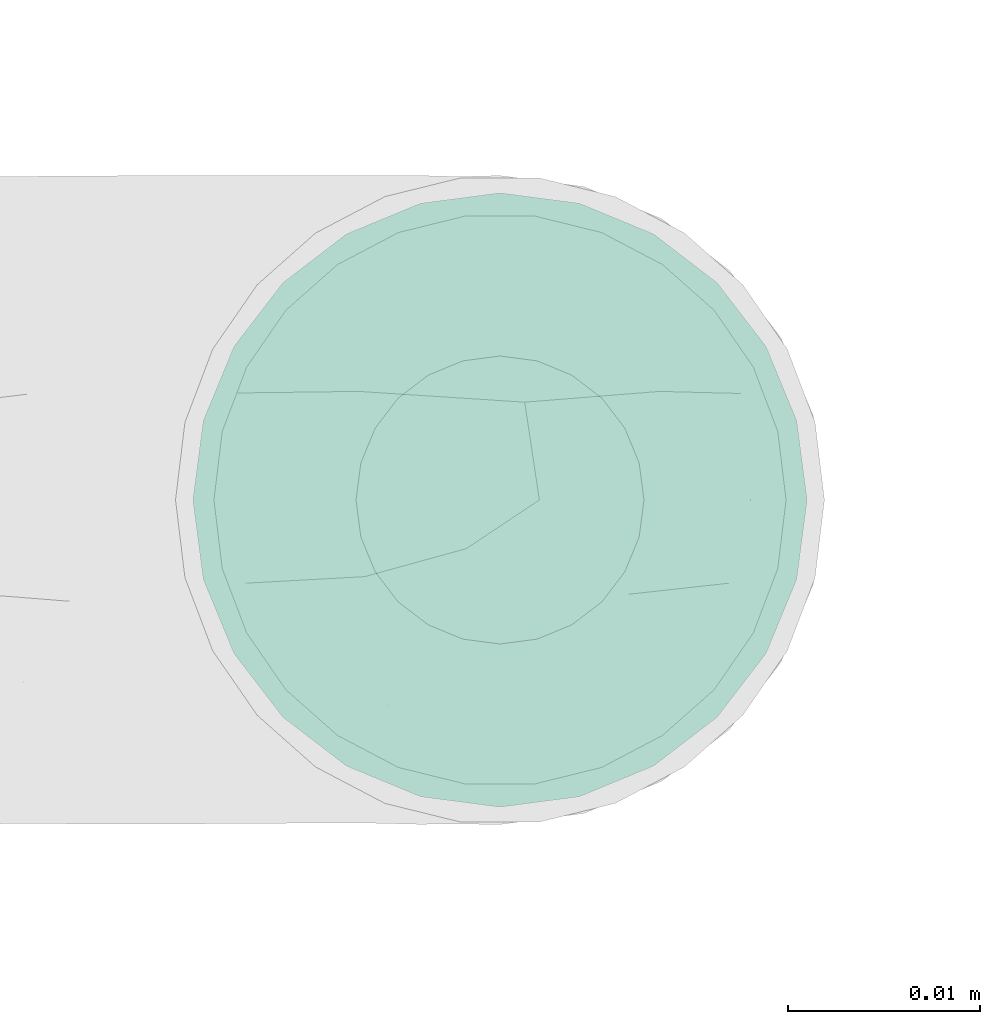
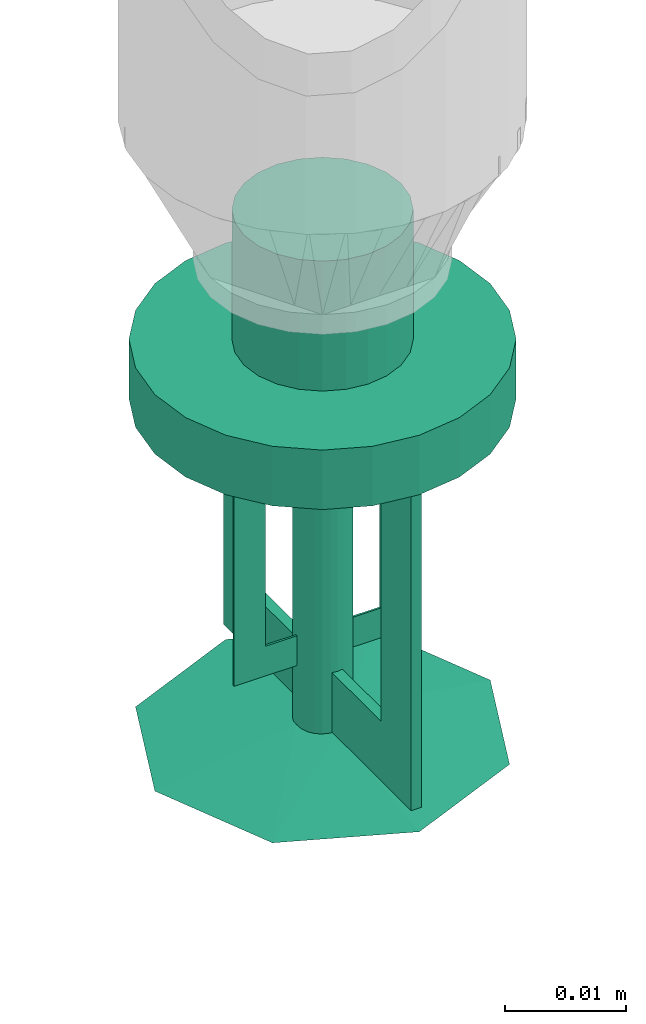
# One storey, part 73 of 157: 1 flow terminal.
"""IFC2X3 building model written with IfcOpenShell, lengths in millimetres."""

from ifc_helpers import new_model, entity, si_unit, converted_unit, derived_unit, direction, frame, origin_with_axes, place, context, subcontext, project, spatial, open_shell, surface_model, source, transform, mapped, type_object, element, save


model = new_model("IFC2X3")

# Units and contexts
model_context = context("Model", 3, precision=0.01, world=frame((0.0, 4.29681676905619e-09, 0.0)), true_north=direction((4.01073788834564e-13, 1.0)))
plan_context = context("Plan", 3, precision=0.01, world=frame((0.0, 4.29681676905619e-09, 0.0)), true_north=direction((4.01073788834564e-13, 1.0)))
body_context = subcontext(model_context, "Body", "Model", "MODEL_VIEW")
ifc_project = project(units=[converted_unit("PLANEANGLEUNIT", "DEGREE", entity("IfcPositiveLengthMeasure", 0.0174532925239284), si_unit("PLANEANGLEUNIT", "RADIAN"), dimensions=[0, 0, 0, 0, 0, 0, 0]), si_unit("AREAUNIT", "SQUARE_METRE"), si_unit("LENGTHUNIT", "METRE", prefix="MILLI"), si_unit("MASSUNIT", "GRAM", prefix="KILO"), si_unit("POWERUNIT", "WATT"), si_unit("PRESSUREUNIT", "PASCAL"), si_unit("FORCEUNIT", "NEWTON", prefix="KILO"), si_unit("ELECTRICCURRENTUNIT", "AMPERE"), si_unit("THERMODYNAMICTEMPERATUREUNIT", "DEGREE_CELSIUS"), si_unit("TIMEUNIT", "SECOND"), si_unit("VOLUMEUNIT", "CUBIC_METRE"), derived_unit("LINEARVELOCITYUNIT", [(si_unit("LENGTHUNIT", "METRE"), 1), (si_unit("TIMEUNIT", "SECOND"), -1)]), derived_unit("VOLUMETRICFLOWRATEUNIT", [(si_unit("VOLUMEUNIT", "CUBIC_METRE"), 1), (si_unit("TIMEUNIT", "SECOND"), -1)]), derived_unit("THERMALTRANSMITTANCEUNIT", [(si_unit("POWERUNIT", "WATT"), 1), (si_unit("THERMODYNAMICTEMPERATUREUNIT", "KELVIN"), -1), (si_unit("AREAUNIT", "SQUARE_METRE"), -1)])], contexts=[model_context, plan_context])

# Site, building, storey
site_placement = place(None, frame((0.0, -4.29681676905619e-09, 0.0), z_axis=(0.0, 0.0, 1.0), x_axis=(1.0, 0.0, 0.0)))
site = spatial("IfcSite", under=ifc_project, at=site_placement, CompositionType="ELEMENT")
building_placement = place(site_placement, frame((0.0, 4.29681676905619e-09, 0.0), z_axis=(0.0, 0.0, 1.0), x_axis=(1.0, 0.0, 0.0)))
building = spatial("IfcBuilding", under=site, at=building_placement, Name="mc-building", CompositionType="ELEMENT")
storey_placement = place(building_placement, frame((0.0, 0.0, 204000.0), z_axis=(0.0, 0.0, 1.0), x_axis=(1.0, 0.0, 0.0)))
storey = spatial("IfcBuildingStorey", under=building, at=storey_placement, Name="Nivå D", CompositionType="ELEMENT", Elevation=204000.0)

# Flow terminal
fire_suppression_terminal_type = type_object("IfcFireSuppressionTerminalType", Name="SP-15-K80-68DGR-STD-STÅENDE", PredefinedType="NOTDEFINED")
shared_shape = source(origin_with_axes(), body_context, "Body", "SurfaceModel", [
    surface_model("IfcShellBasedSurfaceModel", [(7.24444, -1.94114, 0.1), (1.94114, -7.24444, 0.1), (3.75, -6.49519, 0.1), (5.3033, -5.3033, 0.1), (-5.3033, -5.3033, 0.1), (6.49519, -3.75, 0.1), (5.3033, 5.3033, 0.1), (0.0, -7.5, 0.1), (-3.75, -6.49519, 0.1), (-1.94114, -7.24444, 0.1), (-7.24444, -1.94114, 0.1), (-6.49519, -3.75, 0.1), (-7.24444, 1.94114, 0.1), (7.5, 0.0, 0.1), (6.49519, 3.75, 0.1), (-6.49519, 3.75, 0.1), (1.94114, 7.24444, 0.1), (0.0, 7.5, 0.1), (3.75, 6.49519, 0.1), (-7.5, 0.0, 0.1), (-5.3033, 5.3033, 0.1), (-1.94114, 7.24444, 0.1), (-3.75, 6.49519, 0.1), (7.24444, 1.94114, 0.1), (1.94114, 7.24444, -0.1), (-6.49519, 3.75, -0.1), (0.0, 7.5, -0.1), (5.3033, 5.3033, -0.1), (3.75, 6.49519, -0.1), (6.49519, 3.75, -0.1), (7.24444, 1.94114, -0.1), (-1.94114, 7.24444, -0.1), (-5.3033, 5.3033, -0.1), (-3.75, 6.49519, -0.1), (-7.24444, 1.94114, -0.1), (-7.24444, -1.94114, -0.1), (-7.5, 0.0, -0.1), (7.5, 0.0, -0.1), (7.24444, -1.94114, -0.1), (-5.3033, -5.3033, -0.1), (1.94114, -7.24444, -0.1), (6.49519, -3.75, -0.1), (5.3033, -5.3033, -0.1), (3.75, -6.49519, -0.1), (-6.49519, -3.75, -0.1), (-3.75, -6.49519, -0.1), (0.0, -7.5, -0.1), (-1.94114, -7.24444, -0.1), (0.0, -2.5, 51.0), (-2.5, 0.0, 51.0), (0.0, 2.5, 51.0), (2.5, 0.0, 51.0), (0.0, -16.0, 53.0), (11.31371, -11.31371, 53.0), (-11.31371, -11.31371, 53.0), (-16.0, 0.0, 53.0), (16.0, 0.0, 53.0), (11.31371, 11.31371, 53.0), (0.0, 16.0, 53.0), (-11.31371, 11.31371, 53.0), (1.25, -2.16506, 57.0), (0.0, -2.5, 57.0), (0.64705, -2.41481, 57.0), (2.41481, -0.64705, 57.0), (1.76777, -1.76777, 57.0), (-2.41481, -0.64705, 57.0), (-2.5, 0.0, 57.0), (2.16506, -1.25, 57.0), (-1.25, -2.16506, 57.0), (-0.64705, -2.41481, 57.0), (-1.76777, -1.76777, 57.0), (-2.16506, -1.25, 57.0), (2.5, 0.0, 57.0), (2.41481, 0.64705, 57.0), (2.16506, 1.25, 57.0), (1.76777, 1.76777, 57.0), (0.64705, 2.41481, 57.0), (1.25, 2.16506, 57.0), (-1.76777, 1.76777, 57.0), (0.0, 2.5, 57.0), (-2.16506, 1.25, 57.0), (-2.41481, 0.64705, 57.0), (-0.64705, 2.41481, 57.0), (-1.25, 2.16506, 57.0), (1.25, 2.16506, 51.0), (1.76777, 1.76777, 51.0), (1.15, 1.99186, 51.0), (0.59528, 2.22163, 51.0), (0.64705, 2.41481, 51.0), (0.0, 2.3, 51.0), (1.62635, 1.62635, 51.0), (2.41481, 0.64705, 51.0), (2.3, 0.0, 51.0), (2.22163, 0.59528, 51.0), (2.16506, 1.25, 51.0), (1.99186, 1.15, 51.0), (-0.59528, 2.22163, 51.0), (-0.64705, 2.41481, 51.0), (-1.15, 1.99186, 51.0), (-1.76777, 1.76777, 51.0), (-1.25, 2.16506, 51.0), (-1.62635, 1.62635, 51.0), (-1.99186, 1.15, 51.0), (-2.16506, 1.25, 51.0), (-2.22163, 0.59528, 51.0), (-2.41481, 0.64705, 51.0), (-2.3, 0.0, 51.0), (2.41481, -0.64705, 51.0), (2.22163, -0.59528, 51.0), (1.99186, -1.15, 51.0), (2.16506, -1.25, 51.0), (1.62635, -1.62635, 51.0), (1.76777, -1.76777, 51.0), (1.25, -2.16506, 51.0), (1.15, -1.99186, 51.0), (0.59528, -2.22163, 51.0), (0.64705, -2.41481, 51.0), (0.0, -2.3, 51.0), (-2.16506, -1.25, 51.0), (-1.99186, -1.15, 51.0), (-1.76777, -1.76777, 51.0), (-1.62635, -1.62635, 51.0), (-2.41481, -0.64705, 51.0), (-2.22163, -0.59528, 51.0), (-0.59528, -2.22163, 51.0), (-0.64705, -2.41481, 51.0), (-1.15, -1.99186, 51.0), (-1.25, -2.16506, 51.0), (1.62635, -1.62635, 56.8), (1.15, -1.99186, 56.8), (0.59528, -2.22163, 56.8), (0.0, -2.3, 56.8), (2.22163, 0.59528, 56.8), (1.99186, -1.15, 56.8), (2.22163, -0.59528, 56.8), (-0.59528, -2.22163, 56.8), (-1.15, -1.99186, 56.8), (-1.62635, -1.62635, 56.8), (-1.99186, -1.15, 56.8), (-2.22163, -0.59528, 56.8), (-1.99186, 1.15, 56.8), (2.3, 0.0, 56.8), (1.62635, 1.62635, 56.8), (1.99186, 1.15, 56.8), (1.15, 1.99186, 56.8), (0.0, 2.3, 56.8), (0.59528, 2.22163, 56.8), (-2.22163, 0.59528, 56.8), (-2.3, 0.0, 56.8), (-1.15, 1.99186, 56.8), (-0.59528, 2.22163, 56.8), (-1.62635, 1.62635, 56.8), (4.1411, -15.45481, 19.0), (8.0, -13.85641, 19.0), (11.31371, -11.31371, 19.0), (-8.0, -13.85641, 19.0), (15.45481, -4.1411, 19.0), (16.0, 0.0, 19.0), (13.85641, -8.0, 19.0), (0.0, -16.0, 19.0), (-4.1411, -15.45481, 19.0), (-13.85641, -8.0, 19.0), (-11.31371, -11.31371, 19.0), (-15.45481, -4.1411, 19.0), (15.45481, 4.1411, 19.0), (13.85641, 8.0, 19.0), (11.31371, 11.31371, 19.0), (-4.1411, 15.45481, 19.0), (8.0, 13.85641, 19.0), (4.1411, 15.45481, 19.0), (0.0, 16.0, 19.0), (-13.85641, 8.0, 19.0), (-15.45481, 4.1411, 19.0), (-16.0, 0.0, 19.0), (-11.31371, 11.31371, 19.0), (-8.0, 13.85641, 19.0), (0.0, 16.0, 13.0), (4.1411, 15.45481, 13.0), (8.0, 13.85641, 13.0), (-4.1411, 15.45481, 13.0), (11.31371, 11.31371, 13.0), (13.85641, 8.0, 13.0), (15.45481, 4.1411, 13.0), (-15.45481, -4.1411, 13.0), (-11.31371, 11.31371, 13.0), (-8.0, 13.85641, 13.0), (-13.85641, 8.0, 13.0), (-15.45481, 4.1411, 13.0), (-16.0, 0.0, 13.0), (4.1411, -15.45481, 13.0), (16.0, 0.0, 13.0), (15.45481, -4.1411, 13.0), (13.85641, -8.0, 13.0), (11.31371, -11.31371, 13.0), (8.0, -13.85641, 13.0), (-8.0, -13.85641, 13.0), (-13.85641, -8.0, 13.0), (-11.31371, -11.31371, 13.0), (0.0, -16.0, 13.0), (-4.1411, -15.45481, 13.0), (7.24444, -1.94114, 13.0), (1.94114, -7.24444, 13.0), (3.75, -6.49519, 13.0), (5.3033, -5.3033, 13.0), (-5.3033, -5.3033, 13.0), (6.49519, -3.75, 13.0), (5.3033, 5.3033, 13.0), (0.0, -7.5, 13.0), (-3.75, -6.49519, 13.0), (-1.94114, -7.24444, 13.0), (-7.24444, -1.94114, 13.0), (-6.49519, -3.75, 13.0), (-7.24444, 1.94114, 13.0), (7.5, 0.0, 13.0), (6.49519, 3.75, 13.0), (-6.49519, 3.75, 13.0), (1.94114, 7.24444, 13.0), (0.0, 7.5, 13.0), (3.75, 6.49519, 13.0), (-7.5, 0.0, 13.0), (-5.3033, 5.3033, 13.0), (-1.94114, 7.24444, 13.0), (-3.75, 6.49519, 13.0), (7.24444, 1.94114, 13.0), (3.75, 6.49519, 0.0), (5.3033, 5.3033, 0.0), (3.65, 6.32199, 0.0), (1.88938, 7.05126, 0.0), (0.0, 7.3, 0.0), (1.94114, 7.24444, 0.0), (0.0, 7.5, 0.0), (5.16188, 5.16188, 0.0), (7.24444, 1.94114, 0.0), (7.3, 0.0, 0.0), (7.05126, 1.88938, 0.0), (7.5, 0.0, 0.0), (6.49519, 3.75, 0.0), (6.32199, 3.65, 0.0), (-1.88938, 7.05126, 0.0), (-1.94114, 7.24444, 0.0), (-3.65, 6.32199, 0.0), (-5.3033, 5.3033, 0.0), (-3.75, 6.49519, 0.0), (-5.16188, 5.16188, 0.0), (-6.32199, 3.65, 0.0), (-6.49519, 3.75, 0.0), (-7.05126, 1.88938, 0.0), (-7.24444, 1.94114, 0.0), (-7.3, 0.0, 0.0), (-7.5, 0.0, 0.0), (7.24444, -1.94114, 0.0), (7.05126, -1.88938, 0.0), (6.32199, -3.65, 0.0), (6.49519, -3.75, 0.0), (5.16188, -5.16188, 0.0), (5.3033, -5.3033, 0.0), (3.75, -6.49519, 0.0), (3.65, -6.32199, 0.0), (1.88938, -7.05126, 0.0), (1.94114, -7.24444, 0.0), (0.0, -7.3, 0.0), (0.0, -7.5, 0.0), (-6.49519, -3.75, 0.0), (-6.32199, -3.65, 0.0), (-5.3033, -5.3033, 0.0), (-5.16188, -5.16188, 0.0), (-7.24444, -1.94114, 0.0), (-7.05126, -1.88938, 0.0), (-1.88938, -7.05126, 0.0), (-1.94114, -7.24444, 0.0), (-3.65, -6.32199, 0.0), (-3.75, -6.49519, 0.0), (1.88938, -7.05126, 12.8), (0.0, -7.3, 12.8), (3.65, -6.32199, 12.8), (5.16188, -5.16188, 12.8), (6.32199, -3.65, 12.8), (7.05126, 1.88938, 12.8), (7.05126, -1.88938, 12.8), (-5.16188, -5.16188, 12.8), (-1.88938, -7.05126, 12.8), (-3.65, -6.32199, 12.8), (-6.32199, -3.65, 12.8), (-7.05126, -1.88938, 12.8), (0.0, 7.3, 12.8), (7.3, 0.0, 12.8), (6.32199, 3.65, 12.8), (5.16188, 5.16188, 12.8), (3.65, 6.32199, 12.8), (1.88938, 7.05126, 12.8), (-6.32199, 3.65, 12.8), (-7.05126, 1.88938, 12.8), (-7.3, 0.0, 12.8), (-3.65, 6.32199, 12.8), (-1.88938, 7.05126, 12.8), (-5.16188, 5.16188, 12.8), (5.5, 0.1, 42.0), (2.5, 0.1, 42.0), (5.5, 0.1, 45.0), (2.5, 0.1, 45.0), (5.5, -0.1, 45.0), (2.5, -0.1, 45.0), (5.5, -0.1, 42.0), (2.5, -0.1, 42.0), (8.5, 0.1, 42.0), (8.5, 0.1, 45.0), (8.5, -0.1, 45.0), (8.5, -0.1, 42.0), (8.5, 0.1, 19.0), (5.5, 0.1, 19.0), (5.5, -0.1, 19.0), (8.5, -0.1, 19.0), (-5.5, -0.1, 42.0), (-2.5, -0.1, 42.0), (-5.5, -0.1, 45.0), (-2.5, -0.1, 45.0), (-5.5, 0.1, 45.0), (-2.5, 0.1, 45.0), (-5.5, 0.1, 42.0), (-2.5, 0.1, 42.0), (-8.5, -0.1, 42.0), (-8.5, -0.1, 45.0), (-8.5, 0.1, 45.0), (-8.5, 0.1, 42.0), (-8.5, -0.1, 19.0), (-5.5, -0.1, 19.0), (-5.5, 0.1, 19.0), (-8.5, 0.1, 19.0), (0.5, -2.5, 51.0), (0.5, -2.5, 45.0), (0.5, 10.5, 45.0), (0.5, 10.5, 51.0), (-0.5, 10.5, 51.0), (-0.5, 10.5, 45.0), (-0.5, -2.5, 45.0), (-0.5, -2.5, 51.0), (0.5, 10.5, 19.0), (0.5, 15.5, 19.0), (0.5, 15.5, 51.0), (-0.5, 15.5, 51.0), (-0.5, 10.5, 19.0), (-0.5, 15.5, 19.0), (0.5, 2.5, 45.0), (0.5, 2.5, 51.0), (0.5, -10.5, 51.0), (0.5, -10.5, 45.0), (-0.5, -10.5, 45.0), (-0.5, -10.5, 51.0), (-0.5, 2.5, 51.0), (-0.5, 2.5, 45.0), (0.5, -15.5, 19.0), (0.5, -10.5, 19.0), (0.5, -15.5, 51.0), (-0.5, -15.5, 51.0), (-0.5, -15.5, 19.0), (-0.5, -10.5, 19.0), (1.25, 2.16506, 19.0), (1.76777, 1.76777, 19.0), (1.15, 1.99186, 19.0), (0.59528, 2.22163, 19.0), (0.64705, 2.41481, 19.0), (0.0, 2.3, 19.0), (0.0, 2.5, 19.0), (1.62635, 1.62635, 19.0), (2.41481, 0.64705, 19.0), (2.3, 0.0, 19.0), (2.22163, 0.59528, 19.0), (2.5, 0.0, 19.0), (2.16506, 1.25, 19.0), (1.99186, 1.15, 19.0), (-0.59528, 2.22163, 19.0), (-0.64705, 2.41481, 19.0), (-1.15, 1.99186, 19.0), (-1.76777, 1.76777, 19.0), (-1.25, 2.16506, 19.0), (-1.62635, 1.62635, 19.0), (-1.99186, 1.15, 19.0), (-2.16506, 1.25, 19.0), (-2.22163, 0.59528, 19.0), (-2.41481, 0.64705, 19.0), (-2.3, 0.0, 19.0), (-2.5, 0.0, 19.0), (2.41481, -0.64705, 19.0), (2.22163, -0.59528, 19.0), (1.99186, -1.15, 19.0), (2.16506, -1.25, 19.0), (1.62635, -1.62635, 19.0), (1.76777, -1.76777, 19.0), (1.25, -2.16506, 19.0), (1.15, -1.99186, 19.0), (0.59528, -2.22163, 19.0), (0.64705, -2.41481, 19.0), (0.0, -2.3, 19.0), (0.0, -2.5, 19.0), (-2.16506, -1.25, 19.0), (-1.99186, -1.15, 19.0), (-1.76777, -1.76777, 19.0), (-1.62635, -1.62635, 19.0), (-2.41481, -0.64705, 19.0), (-2.22163, -0.59528, 19.0), (-0.59528, -2.22163, 19.0), (-0.64705, -2.41481, 19.0), (-1.15, -1.99186, 19.0), (-1.25, -2.16506, 19.0), (1.62635, -1.62635, 50.8), (1.15, -1.99186, 50.8), (0.59528, -2.22163, 50.8), (0.0, -2.3, 50.8), (2.22163, 0.59528, 50.8), (1.99186, -1.15, 50.8), (2.22163, -0.59528, 50.8), (-0.59528, -2.22163, 50.8), (-1.15, -1.99186, 50.8), (-1.62635, -1.62635, 50.8), (-1.99186, -1.15, 50.8), (-2.22163, -0.59528, 50.8), (-1.99186, 1.15, 50.8), (2.3, 0.0, 50.8), (1.62635, 1.62635, 50.8), (1.99186, 1.15, 50.8), (1.15, 1.99186, 50.8), (0.0, 2.3, 50.8), (0.59528, 2.22163, 50.8), (-2.22163, 0.59528, 50.8), (-2.3, 0.0, 50.8), (-1.15, 1.99186, 50.8), (-0.59528, 2.22163, 50.8), (-1.62635, 1.62635, 50.8)], [open_shell([[[0, 1, 2]], [[0, 2, 3]], [[1, 0, 4]], [[0, 3, 5]], [[6, 4, 0]], [[7, 8, 9]], [[8, 7, 4]], [[4, 10, 11]], [[4, 7, 1]], [[4, 12, 10]], [[6, 0, 13]], [[14, 6, 13]], [[6, 15, 4]], [[16, 17, 6]], [[16, 6, 18]], [[15, 6, 17]], [[15, 12, 4]], [[19, 10, 12]], [[20, 21, 22]], [[21, 20, 15]], [[21, 15, 17]], [[23, 14, 13]], [[24, 25, 26]], [[27, 24, 28]], [[27, 29, 30]], [[24, 27, 25]], [[30, 25, 27]], [[31, 32, 33]], [[32, 31, 25]], [[26, 25, 31]], [[30, 34, 25]], [[34, 35, 36]], [[34, 30, 37]], [[38, 39, 37]], [[40, 38, 41]], [[42, 43, 40]], [[42, 40, 41]], [[39, 38, 40]], [[35, 39, 44]], [[35, 37, 39]], [[45, 46, 47]], [[46, 45, 39]], [[40, 46, 39]], [[37, 35, 34]], [[35, 10, 36]], [[44, 11, 35]], [[8, 39, 45]], [[44, 39, 4]], [[9, 45, 47]], [[35, 11, 10]], [[10, 19, 36]], [[9, 8, 45]], [[4, 39, 8]], [[4, 11, 44]], [[7, 9, 47]], [[47, 46, 7]], [[40, 1, 46]], [[43, 2, 40]], [[5, 42, 41]], [[43, 42, 3]], [[0, 41, 38]], [[43, 3, 2]], [[2, 1, 40]], [[13, 0, 38]], [[5, 41, 0]], [[5, 3, 42]], [[37, 13, 38]], [[46, 1, 7]], [[30, 23, 37]], [[29, 14, 30]], [[18, 27, 28]], [[29, 27, 6]], [[16, 28, 24]], [[30, 14, 23]], [[23, 13, 37]], [[16, 18, 28]], [[6, 27, 18]], [[6, 14, 29]], [[17, 16, 24]], [[24, 26, 17]], [[31, 21, 26]], [[33, 22, 31]], [[15, 32, 25]], [[33, 32, 20]], [[12, 25, 34]], [[33, 20, 22]], [[22, 21, 31]], [[19, 12, 34]], [[15, 25, 12]], [[15, 20, 32]], [[36, 19, 34]], [[26, 21, 17]], [[48, 49, 50]], [[50, 51, 48]], [[52, 53, 54]], [[55, 54, 53]], [[53, 56, 55]], [[56, 57, 58]], [[59, 55, 58]], [[58, 55, 56]], [[51, 50, 57]], [[57, 56, 51]], [[50, 58, 57]], [[50, 59, 58]], [[59, 50, 49]], [[55, 59, 49]], [[49, 48, 54]], [[54, 55, 49]], [[48, 52, 54]], [[48, 53, 52]], [[53, 48, 51]], [[56, 53, 51]], [[60, 61, 62]], [[63, 60, 64]], [[65, 60, 66]], [[63, 64, 67]], [[60, 63, 66]], [[61, 68, 69]], [[68, 61, 70]], [[70, 65, 71]], [[70, 61, 60]], [[60, 65, 70]], [[63, 72, 66]], [[73, 74, 75]], [[66, 73, 75]], [[66, 75, 76]], [[76, 75, 77]], [[78, 76, 79]], [[76, 80, 81]], [[81, 66, 76]], [[78, 82, 83]], [[80, 76, 78]], [[82, 78, 79]], [[73, 66, 72]], [[84, 85, 86]], [[84, 86, 87]], [[88, 87, 89]], [[87, 88, 84]], [[88, 89, 50]], [[86, 85, 90]], [[91, 92, 93]], [[92, 91, 51]], [[91, 93, 94]], [[90, 94, 95]], [[94, 90, 85]], [[95, 94, 93]], [[50, 96, 97]], [[50, 89, 96]], [[97, 96, 98]], [[99, 100, 101]], [[98, 100, 97]], [[101, 100, 98]], [[102, 103, 99]], [[103, 102, 104]], [[102, 99, 101]], [[105, 104, 106]], [[104, 105, 103]], [[105, 106, 49]], [[51, 107, 108]], [[108, 107, 109]], [[109, 110, 111]], [[110, 109, 107]], [[111, 110, 112]], [[112, 113, 114]], [[114, 113, 115]], [[115, 116, 117]], [[116, 115, 113]], [[117, 116, 48]], [[114, 111, 112]], [[118, 119, 120]], [[120, 119, 121]], [[119, 118, 122]], [[49, 123, 122]], [[122, 123, 119]], [[49, 106, 123]], [[124, 48, 125]], [[124, 125, 126]], [[121, 127, 120]], [[127, 121, 126]], [[127, 126, 125]], [[117, 48, 124]], [[108, 92, 51]], [[122, 65, 49]], [[118, 71, 122]], [[68, 120, 127]], [[118, 120, 70]], [[69, 127, 125]], [[122, 71, 65]], [[65, 66, 49]], [[69, 68, 127]], [[70, 120, 68]], [[70, 71, 118]], [[61, 69, 125]], [[125, 48, 61]], [[116, 62, 48]], [[113, 60, 116]], [[67, 112, 110]], [[113, 112, 64]], [[63, 110, 107]], [[113, 64, 60]], [[60, 62, 116]], [[72, 63, 107]], [[67, 110, 63]], [[67, 64, 112]], [[51, 72, 107]], [[48, 62, 61]], [[91, 73, 51]], [[94, 74, 91]], [[77, 85, 84]], [[94, 85, 75]], [[76, 84, 88]], [[91, 74, 73]], [[73, 72, 51]], [[76, 77, 84]], [[75, 85, 77]], [[75, 74, 94]], [[79, 76, 88]], [[88, 50, 79]], [[97, 82, 50]], [[100, 83, 97]], [[80, 99, 103]], [[100, 99, 78]], [[81, 103, 105]], [[100, 78, 83]], [[83, 82, 97]], [[66, 81, 105]], [[80, 103, 81]], [[80, 78, 99]], [[49, 66, 105]], [[50, 82, 79]], [[128, 129, 130]], [[128, 130, 131]], [[132, 128, 131]], [[133, 128, 134]], [[132, 134, 128]], [[135, 136, 131]], [[137, 131, 136]], [[138, 139, 137]], [[137, 139, 140]], [[131, 137, 140]], [[141, 134, 132]], [[142, 143, 132]], [[144, 142, 132]], [[145, 146, 144]], [[132, 145, 144]], [[140, 145, 132]], [[147, 140, 148]], [[148, 140, 139]], [[149, 150, 151]], [[140, 151, 150]], [[140, 150, 145]], [[132, 131, 140]], [[106, 139, 123]], [[123, 138, 119]], [[126, 121, 136]], [[137, 121, 119]], [[124, 126, 135]], [[139, 138, 123]], [[106, 148, 139]], [[126, 136, 135]], [[136, 121, 137]], [[119, 138, 137]], [[124, 135, 131]], [[131, 117, 124]], [[117, 130, 115]], [[115, 129, 114]], [[109, 111, 133]], [[128, 111, 114]], [[108, 109, 134]], [[129, 128, 114]], [[115, 130, 129]], [[108, 134, 141]], [[134, 109, 133]], [[111, 128, 133]], [[108, 141, 92]], [[131, 130, 117]], [[92, 132, 93]], [[93, 143, 95]], [[86, 90, 144]], [[142, 90, 95]], [[87, 86, 146]], [[132, 143, 93]], [[92, 141, 132]], [[86, 144, 146]], [[144, 90, 142]], [[95, 143, 142]], [[87, 146, 145]], [[145, 89, 87]], [[89, 150, 96]], [[96, 149, 98]], [[102, 101, 140]], [[151, 101, 98]], [[104, 102, 147]], [[149, 151, 98]], [[96, 150, 149]], [[104, 147, 148]], [[147, 102, 140]], [[101, 151, 140]], [[104, 148, 106]], [[145, 150, 89]], [[152, 153, 154]], [[155, 152, 154]], [[156, 157, 154]], [[156, 154, 158]], [[155, 154, 157]], [[159, 155, 160]], [[159, 152, 155]], [[155, 161, 162]], [[161, 155, 163]], [[157, 163, 155]], [[157, 164, 163]], [[164, 165, 166]], [[167, 164, 166]], [[168, 169, 170]], [[166, 168, 167]], [[170, 167, 168]], [[163, 171, 172]], [[173, 163, 172]], [[174, 167, 175]], [[167, 174, 171]], [[171, 163, 167]], [[163, 164, 167]], [[176, 177, 178]], [[179, 176, 178]], [[180, 181, 182]], [[179, 178, 180]], [[179, 180, 183]], [[179, 184, 185]], [[184, 179, 186]], [[186, 183, 187]], [[183, 186, 179]], [[187, 183, 188]], [[180, 182, 183]], [[189, 190, 191]], [[189, 191, 192]], [[193, 194, 189]], [[193, 189, 192]], [[190, 189, 195]], [[196, 195, 197]], [[195, 196, 183]], [[195, 198, 199]], [[195, 183, 190]], [[189, 198, 195]], [[190, 183, 182]], [[183, 163, 188]], [[196, 161, 183]], [[155, 197, 195]], [[196, 197, 162]], [[160, 195, 199]], [[183, 161, 163]], [[163, 173, 188]], [[160, 155, 195]], [[162, 197, 155]], [[162, 161, 196]], [[159, 160, 199]], [[199, 198, 159]], [[189, 152, 198]], [[194, 153, 189]], [[158, 193, 192]], [[194, 193, 154]], [[156, 192, 191]], [[194, 154, 153]], [[153, 152, 189]], [[157, 156, 191]], [[158, 192, 156]], [[158, 154, 193]], [[190, 157, 191]], [[198, 152, 159]], [[182, 164, 190]], [[181, 165, 182]], [[168, 180, 178]], [[181, 180, 166]], [[169, 178, 177]], [[182, 165, 164]], [[164, 157, 190]], [[169, 168, 178]], [[166, 180, 168]], [[166, 165, 181]], [[170, 169, 177]], [[177, 176, 170]], [[179, 167, 176]], [[185, 175, 179]], [[171, 184, 186]], [[185, 184, 174]], [[172, 186, 187]], [[185, 174, 175]], [[175, 167, 179]], [[173, 172, 187]], [[171, 186, 172]], [[171, 174, 184]], [[188, 173, 187]], [[176, 167, 170]], [[200, 201, 202]], [[200, 202, 203]], [[201, 200, 204]], [[200, 203, 205]], [[206, 204, 200]], [[207, 208, 209]], [[208, 207, 204]], [[204, 210, 211]], [[204, 207, 201]], [[204, 212, 210]], [[206, 200, 213]], [[214, 206, 213]], [[206, 215, 204]], [[216, 217, 206]], [[216, 206, 218]], [[215, 206, 217]], [[215, 212, 204]], [[219, 210, 212]], [[220, 221, 222]], [[221, 220, 215]], [[221, 215, 217]], [[223, 214, 213]], [[224, 225, 226]], [[224, 226, 227]], [[228, 229, 227]], [[229, 228, 230]], [[227, 229, 224]], [[226, 225, 231]], [[232, 233, 234]], [[233, 232, 235]], [[232, 234, 236]], [[231, 236, 237]], [[236, 231, 225]], [[237, 236, 234]], [[230, 238, 239]], [[239, 238, 240]], [[241, 242, 243]], [[240, 242, 239]], [[240, 243, 242]], [[230, 228, 238]], [[244, 245, 241]], [[245, 244, 246]], [[244, 241, 243]], [[247, 246, 248]], [[246, 247, 245]], [[247, 248, 249]], [[235, 250, 251]], [[251, 250, 252]], [[252, 253, 254]], [[253, 252, 250]], [[254, 253, 255]], [[255, 256, 257]], [[257, 256, 258]], [[258, 259, 260]], [[259, 258, 256]], [[260, 259, 261]], [[257, 254, 255]], [[262, 263, 264]], [[264, 263, 265]], [[263, 262, 266]], [[249, 267, 266]], [[266, 267, 263]], [[249, 248, 267]], [[268, 261, 269]], [[268, 269, 270]], [[265, 271, 264]], [[265, 270, 271]], [[271, 270, 269]], [[260, 261, 268]], [[251, 233, 235]], [[266, 210, 249]], [[262, 211, 266]], [[208, 264, 271]], [[262, 264, 204]], [[209, 271, 269]], [[266, 211, 210]], [[210, 219, 249]], [[209, 208, 271]], [[204, 264, 208]], [[204, 211, 262]], [[207, 209, 269]], [[269, 261, 207]], [[259, 201, 261]], [[256, 202, 259]], [[205, 255, 253]], [[256, 255, 203]], [[200, 253, 250]], [[256, 203, 202]], [[202, 201, 259]], [[213, 200, 250]], [[205, 253, 200]], [[205, 203, 255]], [[235, 213, 250]], [[261, 201, 207]], [[232, 223, 235]], [[236, 214, 232]], [[218, 225, 224]], [[236, 225, 206]], [[216, 224, 229]], [[232, 214, 223]], [[223, 213, 235]], [[216, 218, 224]], [[206, 225, 218]], [[206, 214, 236]], [[217, 216, 229]], [[229, 230, 217]], [[239, 221, 230]], [[242, 222, 239]], [[215, 241, 245]], [[242, 241, 220]], [[212, 245, 247]], [[242, 220, 222]], [[222, 221, 239]], [[219, 212, 247]], [[215, 245, 212]], [[215, 220, 241]], [[249, 219, 247]], [[230, 221, 217]], [[272, 273, 274]], [[275, 274, 276]], [[277, 278, 274]], [[276, 274, 278]], [[274, 279, 277]], [[280, 281, 273]], [[279, 273, 281]], [[282, 283, 279]], [[274, 273, 279]], [[283, 284, 279]], [[278, 277, 285]], [[286, 277, 284]], [[287, 286, 288]], [[284, 289, 288]], [[286, 284, 288]], [[283, 290, 284]], [[291, 290, 292]], [[292, 290, 283]], [[293, 294, 295]], [[284, 290, 295]], [[284, 295, 294]], [[284, 277, 279]], [[248, 283, 267]], [[267, 282, 263]], [[270, 265, 281]], [[279, 265, 263]], [[268, 270, 280]], [[283, 282, 267]], [[248, 292, 283]], [[270, 281, 280]], [[281, 265, 279]], [[263, 282, 279]], [[268, 280, 273]], [[273, 260, 268]], [[260, 272, 258]], [[258, 274, 257]], [[252, 254, 276]], [[275, 254, 257]], [[251, 252, 278]], [[274, 275, 257]], [[258, 272, 274]], [[251, 278, 285]], [[278, 252, 276]], [[254, 275, 276]], [[251, 285, 233]], [[273, 272, 260]], [[233, 277, 234]], [[234, 286, 237]], [[226, 231, 288]], [[287, 231, 237]], [[227, 226, 289]], [[277, 286, 234]], [[233, 285, 277]], [[226, 288, 289]], [[288, 231, 287]], [[237, 286, 287]], [[227, 289, 284]], [[284, 228, 227]], [[228, 294, 238]], [[238, 293, 240]], [[244, 243, 290]], [[295, 243, 240]], [[246, 244, 291]], [[293, 295, 240]], [[238, 294, 293]], [[246, 291, 292]], [[291, 244, 290]], [[243, 295, 290]], [[246, 292, 248]], [[284, 294, 228]], [[296, 297, 298]], [[299, 298, 297]], [[300, 301, 302]], [[303, 302, 301]], [[299, 297, 303]], [[303, 301, 299]], [[298, 299, 301]], [[301, 300, 298]], [[296, 298, 300]], [[300, 302, 296]], [[297, 296, 302]], [[302, 303, 297]], [[304, 296, 305]], [[298, 305, 296]], [[306, 300, 307]], [[302, 307, 300]], [[298, 296, 302]], [[302, 300, 298]], [[305, 298, 300]], [[300, 306, 305]], [[304, 305, 306]], [[306, 307, 304]], [[296, 304, 307]], [[307, 302, 296]], [[308, 309, 296]], [[296, 304, 308]], [[307, 302, 310]], [[310, 311, 307]], [[296, 309, 302]], [[310, 302, 309]], [[304, 296, 302]], [[302, 307, 304]], [[308, 304, 311]], [[307, 311, 304]], [[309, 308, 311]], [[311, 310, 309]], [[312, 313, 314]], [[315, 314, 313]], [[316, 317, 318]], [[319, 318, 317]], [[315, 313, 319]], [[319, 317, 315]], [[314, 315, 317]], [[317, 316, 314]], [[312, 314, 316]], [[316, 318, 312]], [[313, 312, 318]], [[318, 319, 313]], [[320, 312, 321]], [[314, 321, 312]], [[322, 316, 323]], [[318, 323, 316]], [[314, 312, 318]], [[318, 316, 314]], [[321, 314, 316]], [[316, 322, 321]], [[320, 321, 322]], [[322, 323, 320]], [[312, 320, 323]], [[323, 318, 312]], [[324, 325, 312]], [[312, 320, 324]], [[323, 318, 326]], [[326, 327, 323]], [[312, 325, 318]], [[326, 318, 325]], [[320, 312, 318]], [[318, 323, 320]], [[324, 320, 327]], [[323, 327, 320]], [[325, 324, 327]], [[327, 326, 325]], [[328, 329, 330]], [[330, 331, 328]], [[332, 333, 334]], [[334, 335, 332]], [[330, 329, 334]], [[334, 333, 330]], [[331, 330, 333]], [[333, 332, 331]], [[328, 331, 332]], [[332, 335, 328]], [[329, 328, 335]], [[335, 334, 329]], [[336, 337, 331]], [[338, 331, 337]], [[332, 339, 340]], [[341, 340, 339]], [[338, 337, 339]], [[341, 339, 337]], [[331, 338, 339]], [[339, 332, 331]], [[336, 331, 340]], [[332, 340, 331]], [[337, 336, 340]], [[340, 341, 337]], [[342, 343, 344]], [[344, 345, 342]], [[346, 347, 348]], [[348, 349, 346]], [[344, 343, 348]], [[348, 347, 344]], [[345, 344, 347]], [[347, 346, 345]], [[342, 345, 346]], [[346, 349, 342]], [[343, 342, 349]], [[349, 348, 343]], [[350, 351, 352]], [[344, 352, 351]], [[353, 347, 354]], [[355, 354, 347]], [[344, 351, 347]], [[355, 347, 351]], [[352, 344, 347]], [[347, 353, 352]], [[350, 352, 354]], [[353, 354, 352]], [[351, 350, 354]], [[354, 355, 351]], [[113, 48, 116]], [[107, 113, 112]], [[122, 113, 49]], [[107, 112, 110]], [[113, 107, 49]], [[48, 127, 125]], [[127, 48, 120]], [[120, 122, 118]], [[120, 48, 113]], [[113, 122, 120]], [[107, 51, 49]], [[91, 94, 85]], [[49, 91, 85]], [[49, 85, 88]], [[88, 85, 84]], [[99, 88, 50]], [[88, 103, 105]], [[105, 49, 88]], [[99, 97, 100]], [[103, 88, 99]], [[97, 99, 50]], [[91, 49, 51]], [[356, 357, 358]], [[356, 358, 359]], [[360, 359, 361]], [[359, 360, 356]], [[360, 361, 362]], [[358, 357, 363]], [[364, 365, 366]], [[365, 364, 367]], [[364, 366, 368]], [[363, 368, 369]], [[368, 363, 357]], [[369, 368, 366]], [[362, 370, 371]], [[362, 361, 370]], [[371, 370, 372]], [[373, 374, 375]], [[372, 374, 371]], [[375, 374, 372]], [[376, 377, 373]], [[377, 376, 378]], [[376, 373, 375]], [[379, 378, 380]], [[378, 379, 377]], [[379, 380, 381]], [[367, 382, 383]], [[383, 382, 384]], [[384, 385, 386]], [[385, 384, 382]], [[386, 385, 387]], [[387, 388, 389]], [[389, 388, 390]], [[390, 391, 392]], [[391, 390, 388]], [[392, 391, 393]], [[389, 386, 387]], [[394, 395, 396]], [[396, 395, 397]], [[395, 394, 398]], [[381, 399, 398]], [[398, 399, 395]], [[381, 380, 399]], [[400, 393, 401]], [[400, 401, 402]], [[397, 403, 396]], [[403, 397, 402]], [[403, 402, 401]], [[392, 393, 400]], [[383, 365, 367]], [[398, 122, 381]], [[394, 118, 398]], [[127, 396, 403]], [[394, 396, 120]], [[125, 403, 401]], [[398, 118, 122]], [[122, 49, 381]], [[125, 127, 403]], [[120, 396, 127]], [[120, 118, 394]], [[48, 125, 401]], [[401, 393, 48]], [[391, 116, 393]], [[388, 113, 391]], [[110, 387, 385]], [[388, 387, 112]], [[107, 385, 382]], [[388, 112, 113]], [[113, 116, 391]], [[51, 107, 382]], [[110, 385, 107]], [[110, 112, 387]], [[367, 51, 382]], [[393, 116, 48]], [[364, 91, 367]], [[368, 94, 364]], [[84, 357, 356]], [[368, 357, 85]], [[88, 356, 360]], [[364, 94, 91]], [[91, 51, 367]], [[84, 85, 357]], [[368, 85, 94]], [[356, 88, 84]], [[360, 50, 88]], [[360, 362, 50]], [[371, 97, 362]], [[374, 100, 371]], [[103, 373, 377]], [[374, 373, 99]], [[105, 377, 379]], [[374, 99, 100]], [[100, 97, 371]], [[49, 105, 379]], [[103, 377, 105]], [[103, 99, 373]], [[381, 49, 379]], [[362, 97, 50]], [[404, 405, 406]], [[404, 406, 407]], [[408, 404, 407]], [[409, 404, 410]], [[408, 410, 404]], [[411, 412, 407]], [[413, 407, 412]], [[414, 415, 413]], [[413, 415, 416]], [[407, 413, 416]], [[417, 410, 408]], [[418, 419, 408]], [[420, 418, 408]], [[421, 422, 420]], [[408, 421, 420]], [[416, 421, 408]], [[423, 416, 424]], [[424, 416, 415]], [[425, 426, 427]], [[416, 427, 426]], [[416, 426, 421]], [[408, 407, 416]], [[380, 415, 399]], [[399, 414, 395]], [[402, 397, 412]], [[413, 397, 395]], [[400, 402, 411]], [[415, 414, 399]], [[380, 424, 415]], [[402, 412, 411]], [[412, 397, 413]], [[395, 414, 413]], [[400, 411, 407]], [[407, 392, 400]], [[392, 406, 390]], [[390, 405, 389]], [[384, 386, 409]], [[404, 386, 389]], [[383, 384, 410]], [[405, 404, 389]], [[390, 406, 405]], [[383, 410, 417]], [[410, 384, 409]], [[386, 404, 409]], [[383, 417, 365]], [[407, 406, 392]], [[365, 408, 366]], [[366, 419, 369]], [[358, 363, 420]], [[418, 363, 369]], [[359, 358, 422]], [[408, 419, 366]], [[365, 417, 408]], [[418, 420, 363]], [[369, 419, 418]], [[420, 422, 358]], [[422, 421, 359]], [[421, 361, 359]], [[361, 426, 370]], [[370, 425, 372]], [[376, 375, 416]], [[427, 375, 372]], [[378, 376, 423]], [[425, 370, 426]], [[427, 372, 425]], [[378, 423, 424]], [[423, 376, 416]], [[375, 427, 416]], [[378, 424, 380]], [[421, 426, 361]]])]),
])
flow_terminal_placement = place(storey_placement, frame((518179.00142, 415184.37012, 2400.0), z_axis=(0.0, 0.0, -1.0), x_axis=(-1.0, 0.0, 0.0)))
element("IfcFlowTerminal", 1, at=flow_terminal_placement, inside=storey, type_object=fire_suppression_terminal_type, Name="SP-15-K80-68DGR-STD-STÅENDE", context=body_context, shape_type="MappedRepresentation", body=[
    mapped(shared_shape, transform((0.0, 0.0, 0.0), scale=1.0)),
])

save(model, "model.ifc")
